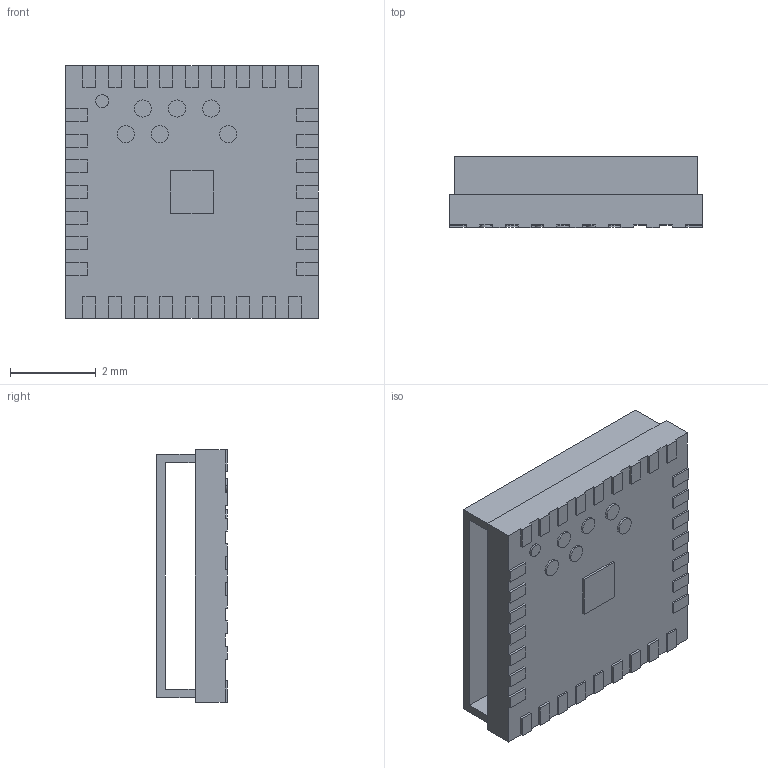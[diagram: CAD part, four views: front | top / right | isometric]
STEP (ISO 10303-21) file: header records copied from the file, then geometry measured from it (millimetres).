
FILE_DESCRIPTION(('STEP AP203'),'1');
FILE_NAME('52stp.stp','2024-07-24T06:00:44',(' '),(' '),'Spatial InterOp 3D',' ',' ');
FILE_SCHEMA(('CONFIG_CONTROL_DESIGN'));
Length unit declared in the file: metre
Products named in the file (1): 1
Bounding box: 5.9 x 1.65 x 5.9 mm (x, y, z)
Volume: 32.8 mm3; surface area: 255.4 mm2
Topology: 1 solids, 4 shells, 171 faces, 924 edges, 766 vertices
Faces by surface type: plane 157, cylinder 14
Entity records: 9132 total; most frequent: CARTESIAN_POINT 1865, ORIENTED_EDGE 1398, DIRECTION 1344, EDGE_CURVE 924, LINE 854, VECTOR 854, VERTEX_POINT 766, AXIS2_PLACEMENT_3D 245
